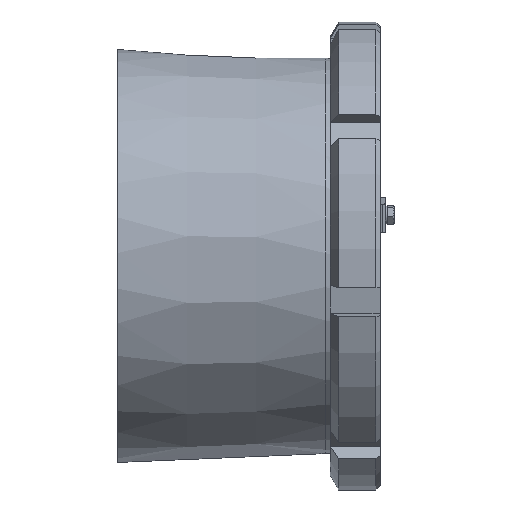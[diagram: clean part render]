
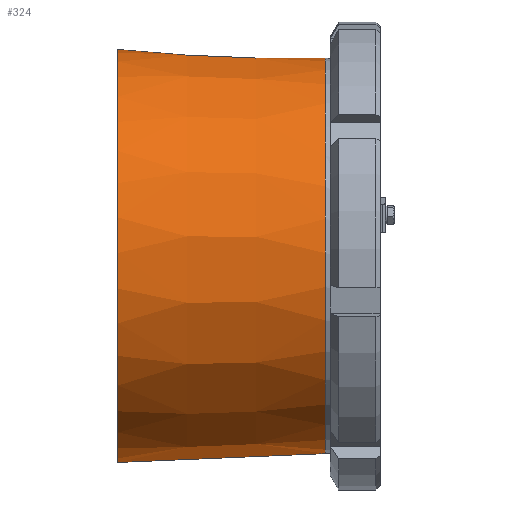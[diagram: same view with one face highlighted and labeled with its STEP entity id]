
A CAD part, top view. The second image highlights one B-rep face of the part: STEP entity #324.
In plain terms, the highlighted conical face has half-angle 2.446 degrees and reference radius 190 mm.
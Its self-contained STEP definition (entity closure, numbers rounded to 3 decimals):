
#324 = ADVANCED_FACE( '', ( #742 ), #743, .T. );
#742 = FACE_OUTER_BOUND( '', #1467, .T. );
#743 = CONICAL_SURFACE( '', #1468, 190., 0.043 );
#1467 = EDGE_LOOP( '', ( #2655, #2656, #2657, #2658 ) );
#1468 = AXIS2_PLACEMENT_3D( '', #2659, #2660, #2661 );
#2655 = ORIENTED_EDGE( '', *, *, #4917, .F. );
#2656 = ORIENTED_EDGE( '', *, *, #4951, .F. );
#2657 = ORIENTED_EDGE( '', *, *, #4947, .T. );
#2658 = ORIENTED_EDGE( '', *, *, #4952, .T. );
#2659 = CARTESIAN_POINT( '', ( -53., 0., 0. ) );
#2660 = DIRECTION( '', ( -1., 0., 0. ) );
#2661 = DIRECTION( '', ( 0., 0., 1. ) );
#4917 = EDGE_CURVE( '', #5892, #5894, #5895, .T. );
#4947 = EDGE_CURVE( '', #5942, #5940, #5943, .T. );
#4951 = EDGE_CURVE( '', #5942, #5892, #5948, .T. );
#4952 = EDGE_CURVE( '', #5940, #5894, #5949, .T. );
#5892 = VERTEX_POINT( '', #7467 );
#5894 = VERTEX_POINT( '', #7470 );
#5895 = B_SPLINE_CURVE_WITH_KNOTS( '', 3, ( #7471, #7472, #7473, #7474, #7475, #7476, #7477 ), .UNSPECIFIED., .F., .F., ( 4, 3, 4 ), ( 0.205, 0.379, 0.405 ), .UNSPECIFIED. );
#5940 = VERTEX_POINT( '', #7545 );
#5942 = VERTEX_POINT( '', #7548 );
#5943 = B_SPLINE_CURVE_WITH_KNOTS( '', 3, ( #7549, #7550, #7551, #7552, #7553, #7554, #7555 ), .UNSPECIFIED., .F., .F., ( 4, 3, 4 ), ( 0.205, 0.379, 0.405 ), .UNSPECIFIED. );
#5948 = CIRCLE( '', #7564, 190. );
#5949 = CIRCLE( '', #7565, 198.5 );
#7467 = CARTESIAN_POINT( '', ( -53., -189.934, 5. ) );
#7470 = CARTESIAN_POINT( '', ( -252., -198.437, 5. ) );
#7471 = CARTESIAN_POINT( '', ( -53., -189.934, 5. ) );
#7472 = CARTESIAN_POINT( '', ( -110.705, -192.4, 5. ) );
#7473 = CARTESIAN_POINT( '', ( -168.41, -194.865, 5. ) );
#7474 = CARTESIAN_POINT( '', ( -226.115, -197.331, 5. ) );
#7475 = CARTESIAN_POINT( '', ( -234.743, -197.7, 5. ) );
#7476 = CARTESIAN_POINT( '', ( -243.372, -198.068, 5. ) );
#7477 = CARTESIAN_POINT( '', ( -252., -198.437, 5. ) );
#7545 = CARTESIAN_POINT( '', ( -252., -198.437, -5. ) );
#7548 = CARTESIAN_POINT( '', ( -53., -189.934, -5. ) );
#7549 = CARTESIAN_POINT( '', ( -53., -189.934, -5. ) );
#7550 = CARTESIAN_POINT( '', ( -110.705, -192.4, -5. ) );
#7551 = CARTESIAN_POINT( '', ( -168.41, -194.865, -5. ) );
#7552 = CARTESIAN_POINT( '', ( -226.115, -197.331, -5. ) );
#7553 = CARTESIAN_POINT( '', ( -234.743, -197.7, -5. ) );
#7554 = CARTESIAN_POINT( '', ( -243.372, -198.068, -5. ) );
#7555 = CARTESIAN_POINT( '', ( -252., -198.437, -5. ) );
#7564 = AXIS2_PLACEMENT_3D( '', #9597, #9598, #9599 );
#7565 = AXIS2_PLACEMENT_3D( '', #9600, #9601, #9602 );
#9597 = CARTESIAN_POINT( '', ( -53., 0., 0. ) );
#9598 = DIRECTION( '', ( 1., 0., 0. ) );
#9599 = DIRECTION( '', ( 0., 0., -1. ) );
#9600 = CARTESIAN_POINT( '', ( -252., 0., 0. ) );
#9601 = DIRECTION( '', ( 1., 0., 0. ) );
#9602 = DIRECTION( '', ( 0., 0., -1. ) );
